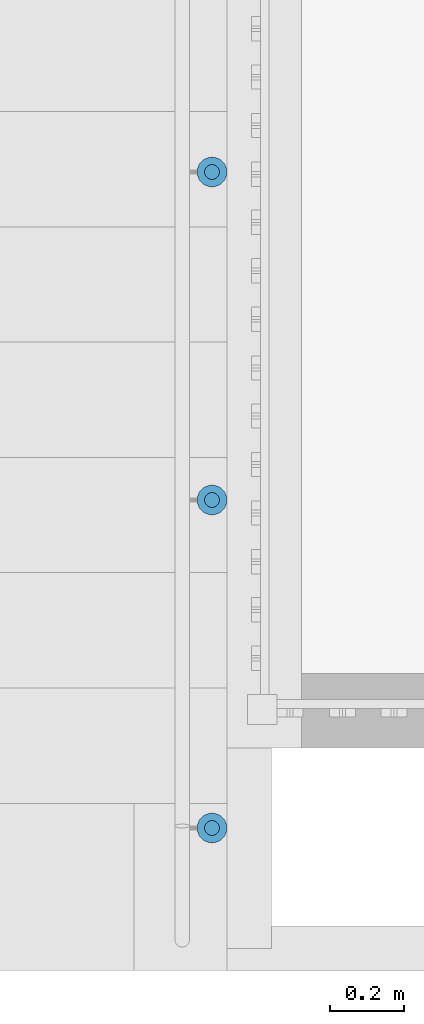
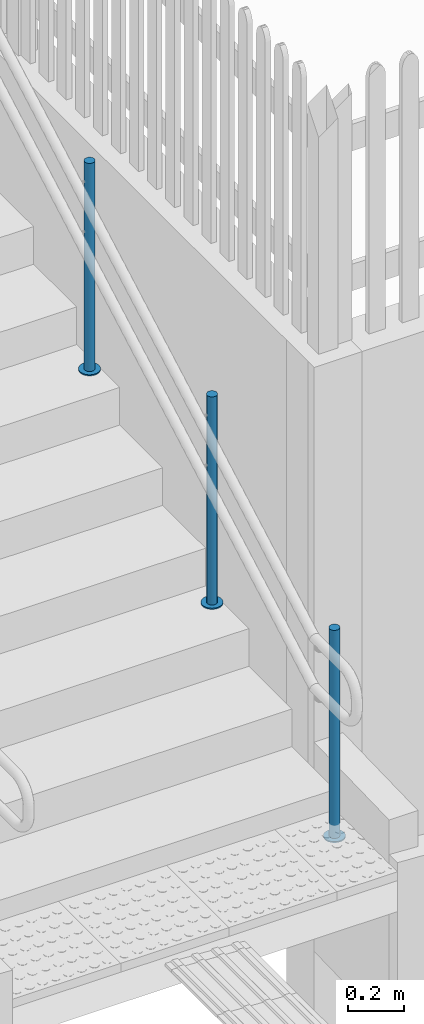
# One storey, part 86 of 237: 6 building element parts, 1 element without a shape of its own.
"""IFC2X3 building model written with IfcOpenShell, lengths in millimetres."""

import ifcopenshell
import ifcopenshell.guid

model = None  # the IFC model being written
_history = None  # IfcOwnerHistory: only IFC2X3 demands one
_inside = {}  # id of a spatial element -> (the spatial element, [elements in it])
_under = {}  # id of a project, library or spatial element -> (it, [spatial elements below it])
_declared = {}  # id of a project -> (the project, [libraries it declares])
_typed = {}  # id of a type object -> (the type object, [elements of that type])
_made_of = {}  # id of a material, layer set ... -> (it, [elements and type objects made of it])


def new_model(schema):
    """Start an empty IFC model of exactly this schema.

    Asked for "IFC4X3", IfcOpenShell would pick the latest addendum, in which some entities
    have other attributes; the version numbers below select the first issue.
    IFC2X3 requires an IfcOwnerHistory on every rooted entity: one is made here for all.
    """
    global model, _history
    if schema == "IFC4X3":
        model = ifcopenshell.file(schema_version=(4, 3, 0, 0))
    else:
        model = ifcopenshell.file(schema=schema)
    _inside.clear()
    _under.clear()
    _declared.clear()
    _typed.clear()
    _made_of.clear()
    _history = None
    if model.schema == "IFC2X3":
        org = make("IfcOrganization", Name="unknown")
        user = make(
            "IfcPersonAndOrganization",
            ThePerson=make("IfcPerson", FamilyName="unknown"),
            TheOrganization=org,
        )
        app = make(
            "IfcApplication",
            ApplicationDeveloper=org,
            Version="unknown",
            ApplicationFullName="unknown",
            ApplicationIdentifier="unknown",
        )
        _history = make(
            "IfcOwnerHistory",
            OwningUser=user,
            OwningApplication=app,
            ChangeAction="ADDED",
            CreationDate=0,
        )
    return model


def make(cls, **values):
    """One entity of the class cls with the attributes given. An attribute that is None is left unset."""
    return model.create_entity(
        cls, **{name: value for name, value in values.items() if value is not None}
    )


def entity(cls, *values):
    """Any entity or typed value of the class cls, its attributes in the order of the schema. None: left unset."""
    e = model.create_entity(cls)
    for i, value in enumerate(values):
        if value is not None:
            e[i] = value
    return e


def rooted(cls, **values):
    """An entity with a GlobalId (a new one), such as an element, a storey or a relation."""
    return make(cls, GlobalId=ifcopenshell.guid.new(), OwnerHistory=_history, **values)


def si_unit(unit_type, name, prefix=None):
    """IfcSIUnit, for example si_unit("LENGTHUNIT", "METRE", prefix="MILLI")."""
    return make("IfcSIUnit", UnitType=unit_type, Prefix=prefix, Name=name)


def converted_unit(unit_type, name, factor, base, dimensions=None, offset=None):
    """IfcConversionBasedUnit, such as the inch: factor (a typed value) times the base unit."""
    return make(
        "IfcConversionBasedUnit"
        if offset is None
        else "IfcConversionBasedUnitWithOffset",
        ConversionOffset=offset,
        Dimensions=None
        if dimensions is None
        else entity("IfcDimensionalExponents", *dimensions),
        UnitType=unit_type,
        Name=name,
        ConversionFactor=make(
            "IfcMeasureWithUnit", ValueComponent=factor, UnitComponent=base
        ),
    )


def derived_unit(unit_type, elements):
    """IfcDerivedUnit: a product of units, each with its exponent."""
    return make(
        "IfcDerivedUnit",
        Elements=[
            make("IfcDerivedUnitElement", Unit=unit, Exponent=power)
            for unit, power in elements
        ],
        UnitType=unit_type,
    )


def money_unit(currency):
    """IfcMonetaryUnit."""
    return make("IfcMonetaryUnit", Currency=currency)


def assignment(units):
    """IfcUnitAssignment: the units of a project."""
    return None if units is None else make("IfcUnitAssignment", Units=units)


def point(xyz):
    """IfcCartesianPoint."""
    return None if xyz is None else make("IfcCartesianPoint", Coordinates=xyz)


def direction(xyz):
    """IfcDirection."""
    return None if xyz is None else make("IfcDirection", DirectionRatios=xyz)


def frame(location, z_axis=None, x_axis=None):
    """IfcAxis2Placement3D, a coordinate frame: its origin and axes. An axis left out is left unset."""
    return make(
        "IfcAxis2Placement3D",
        Location=point(location),
        Axis=direction(z_axis),
        RefDirection=direction(x_axis),
    )


def origin_with_axes():
    """The frame at (0, 0, 0) with the z axis (0, 0, 1) and the x axis (1, 0, 0) written out."""
    return frame((0.0, 0.0, 0.0), z_axis=(0.0, 0.0, 1.0), x_axis=(1.0, 0.0, 0.0))


def place(relative_to, where):
    """IfcLocalPlacement: puts the frame where relative to a parent placement (None: the world)."""
    return make(
        "IfcLocalPlacement", PlacementRelTo=relative_to, RelativePlacement=where
    )


def context(
    kind, dimensions, precision=None, world=None, true_north=None, identifier=None
):
    """IfcGeometricRepresentationContext, for example the 3D "Model" context."""
    return make(
        "IfcGeometricRepresentationContext",
        ContextIdentifier=identifier,
        ContextType=kind,
        CoordinateSpaceDimension=dimensions,
        Precision=precision,
        WorldCoordinateSystem=world,
        TrueNorth=true_north,
    )


def subcontext(parent, identifier, kind, view, scale=None):
    """IfcGeometricRepresentationSubContext, for example "Body" below "Model"."""
    return make(
        "IfcGeometricRepresentationSubContext",
        ContextIdentifier=identifier,
        ContextType=kind,
        ParentContext=parent,
        TargetScale=scale,
        TargetView=view,
    )


def project(units=None, contexts=None):
    """IfcProject with its units and contexts."""
    return rooted(
        "IfcProject",
        Name="project",
        RepresentationContexts=contexts,
        UnitsInContext=assignment(units),
    )


def spatial(cls, under=None, at=None, **own):
    """A site, building, storey or space (cls), placed at a placement, below another one or the project."""
    s = rooted(cls, ObjectPlacement=at, **own)
    if under is not None:
        _under.setdefault(under.id(), (under, []))[1].append(s)
    return s


def faces_of(points, faces, orient=None, outer=None):
    """IfcFace entities. A face is a list of loops; a loop is a list of indices into points, from 0.

    orient and outer hold one flag for each loop. By default every Orientation is true, the
    first loop of a face is its IfcFaceOuterBound and the others are IfcFaceBound.
    """
    made = []
    for i, loops in enumerate(faces):
        bounds = []
        for j, loop in enumerate(loops):
            is_outer = j == 0 if outer is None else outer[i][j]
            bounds.append(
                make(
                    "IfcFaceOuterBound" if is_outer else "IfcFaceBound",
                    Bound=make("IfcPolyLoop", Polygon=[points[k] for k in loop]),
                    Orientation=True if orient is None else orient[i][j],
                )
            )
        made.append(make("IfcFace", Bounds=bounds))
    return made


def faceted_brep(points, faces, orient=None, outer=None, voids=None):
    """IfcFacetedBrep: a solid bounded by flat faces; with voids (closed shells), ...WithVoids."""
    shared = [point(p) for p in points]
    hull = make("IfcClosedShell", CfsFaces=faces_of(shared, faces, orient, outer))
    if voids is None:
        return make("IfcFacetedBrep", Outer=hull)
    return make(
        "IfcFacetedBrepWithVoids",
        Outer=hull,
        Voids=[
            make(cls, CfsFaces=faces_of(shared, fs, o, b)) for cls, fs, o, b in voids
        ],
    )


def shape(context_of_items, identifier, shape_type, items):
    """IfcShapeRepresentation: the items that make up one representation, for example the "Body"."""
    return make(
        "IfcShapeRepresentation",
        ContextOfItems=context_of_items,
        RepresentationIdentifier=identifier,
        RepresentationType=shape_type,
        Items=items,
    )


def material(Name=None, Category=None):
    """IfcMaterial."""
    return make("IfcMaterial", Name=Name, Category=Category)


def made_of(thing, what):
    """Note that an element or type object is made of a material, layer set ...; save() writes the relation."""
    if what is not None:
        _made_of.setdefault(what.id(), (what, []))[1].append(thing)
    return thing


def type_object(cls, material=None, **own):
    """A type object (cls), such as IfcWallType, which elements share."""
    return made_of(rooted(cls, **own), material)


def element(
    cls,
    number,
    at=None,
    inside=None,
    cuts=None,
    type_object=None,
    material=None,
    context=None,
    identifier="Body",
    shape_type=None,
    held_by="IfcProductDefinitionShape",
    body=None,
    shapes=None,
    **own,
):
    """One element of the class cls, such as IfcWall. Its Tag is "e" and its number.

    at: its placement. inside: the storey or other place that contains it. cuts: it is an
    opening in that element (IfcRelVoidsElement). A single representation is given by context,
    identifier, shape_type and body (its items); several are given by shapes. held_by: the class
    of the entity that holds the representations. save() writes the other relations.
    """
    e = rooted(cls, Tag="e%d" % number, ObjectPlacement=at, **own)
    if body is not None:
        shapes = [shape(context, identifier, shape_type, body)]
    if shapes is not None:
        e.Representation = make(held_by, Representations=shapes)
    if inside is not None:
        _inside.setdefault(inside.id(), (inside, []))[1].append(e)
    if cuts is not None:
        rooted(
            "IfcRelVoidsElement", RelatingBuildingElement=cuts, RelatedOpeningElement=e
        )
    if type_object is not None:
        _typed.setdefault(type_object.id(), (type_object, []))[1].append(e)
    return made_of(e, material)


def aggregate(whole, parts):
    """IfcRelAggregates: a whole, such as a stair, and the parts it consists of."""
    return rooted("IfcRelAggregates", RelatingObject=whole, RelatedObjects=parts)


def save(model, path):
    """Write the relations noted so far, then the file.

    IfcRelAggregates (storeys below a building ...), IfcRelContainedInSpatialStructure (elements
    in a storey), IfcRelDefinesByType, IfcRelAssociatesMaterial and IfcRelDeclares: one each for
    every whole, place, type object, material and project.
    """
    for whole, parts in _under.values():
        aggregate(whole, parts)
    for where, things in _inside.values():
        rooted(
            "IfcRelContainedInSpatialStructure",
            RelatedElements=things,
            RelatingStructure=where,
        )
    for kind, things in _typed.values():
        rooted("IfcRelDefinesByType", RelatedObjects=things, RelatingType=kind)
    for what, things in _made_of.values():
        rooted("IfcRelAssociatesMaterial", RelatedObjects=things, RelatingMaterial=what)
    for by, libraries in _declared.values():
        rooted("IfcRelDeclares", RelatingContext=by, RelatedDefinitions=libraries)
    model.write(path)


model = new_model("IFC2X3")

# Units and contexts
model_context = context("Model", 3, precision=0.01, world=origin_with_axes(), true_north=direction((0.0, 1.0)))
body_context = subcontext(model_context, "Body", "Model", "MODEL_VIEW")
ifc_project = project(units=[si_unit("LENGTHUNIT", "METRE", prefix="MILLI"), si_unit("AREAUNIT", "SQUARE_METRE"), si_unit("VOLUMEUNIT", "CUBIC_METRE"), converted_unit("PLANEANGLEUNIT", "DEGREE", entity("IfcPlaneAngleMeasure", 0.0174532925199), si_unit("PLANEANGLEUNIT", "RADIAN"), dimensions=[0, 0, 0, 0, 0, 0, 0]), money_unit("USD"), converted_unit("TIMEUNIT", "Year", entity("IfcTimeMeasure", 31556926.0), si_unit("TIMEUNIT", "SECOND"), dimensions=[0, 0, 1, 0, 0, 0, 0]), si_unit("MASSUNIT", "GRAM", prefix="KILO"), si_unit("THERMODYNAMICTEMPERATUREUNIT", "DEGREE_CELSIUS"), si_unit("LUMINOUSINTENSITYUNIT", "LUMEN"), si_unit("ENERGYUNIT", "JOULE", prefix="MEGA"), derived_unit("THERMALCONDUCTANCEUNIT", [(si_unit("POWERUNIT", "WATT"), 1), (si_unit("LENGTHUNIT", "METRE"), -1), (si_unit("THERMODYNAMICTEMPERATUREUNIT", "KELVIN"), -1)]), derived_unit("SPECIFICHEATCAPACITYUNIT", [(si_unit("ENERGYUNIT", "JOULE"), 1), (si_unit("MASSUNIT", "GRAM", prefix="KILO"), -1), (si_unit("THERMODYNAMICTEMPERATUREUNIT", "KELVIN"), -1)]), derived_unit("MASSDENSITYUNIT", [(si_unit("MASSUNIT", "GRAM", prefix="KILO"), 1), (si_unit("VOLUMEUNIT", "CUBIC_METRE"), -1)])], contexts=[model_context])

# Site, building, storey
site_placement = place(None, origin_with_axes())
site = spatial("IfcSite", under=ifc_project, at=site_placement, Name="Local", CompositionType="ELEMENT")
building_placement = place(site_placement, origin_with_axes())
building = spatial("IfcBuilding", under=site, at=building_placement, Name="Construção", CompositionType="ELEMENT")
storey_placement = place(building_placement, origin_with_axes())
storey = spatial("IfcBuildingStorey", under=building, at=storey_placement, Name="Pavimento Térreo", CompositionType="ELEMENT", Elevation=0.0)

# Railing, building element parts
railing_type = type_object("IfcRailingType", Name="Tipo de Guarda-Corpo", PredefinedType="NOTDEFINED")
railing_placement = place(storey_placement, frame((42107.6477557, 12539.1370974, -3113.60448569), z_axis=(0.0, 0.0, 1.0), x_axis=(1.0, 0.0, 0.0)))
railing = element("IfcRailing", 1, at=railing_placement, inside=storey, type_object=railing_type, Name="Guarda-Corpo - 001", PredefinedType="NOTDEFINED")
ifc_material_1 = material(Name="Aço - Inoxidável")
building_element_part_1_placement = place(railing_placement, origin_with_axes())
building_element_part_1 = element("IfcBuildingElementPart", 2, at=building_element_part_1_placement, material=ifc_material_1, Name="Aço - Inoxidável", context=body_context, shape_type="Brep", body=[
    faceted_brep([(34.4924919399, -135.445127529, 27.2995514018), (34.7963368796, -131.972163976, 27.2995514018), (34.7963368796, -131.972163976, 942.299551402), (34.4924919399, -135.445127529, 942.299551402), (34.4924919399, -128.499200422, 27.2995514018), (33.5901892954, -138.812566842, 27.2995514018), (32.1168449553, -141.972163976, 27.2995514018), (30.117225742, -144.827916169, 27.2995514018), (27.6520890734, -147.293052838, 27.2995514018), (24.7963368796, -149.292672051, 27.2995514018), (21.6367397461, -150.766016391, 27.2995514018), (18.269300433, -151.668319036, 27.2995514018), (14.7963368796, -151.972163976, 27.2995514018), (11.3233733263, -151.668319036, 27.2995514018), (7.95593401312, -150.766016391, 27.2995514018), (4.79633687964, -149.292672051, 27.2995514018), (1.9405846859, -147.293052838, 27.2995514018), (-0.524551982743, -144.827916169, 27.2995514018), (-2.52417119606, -141.972163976, 27.2995514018), (-3.99751553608, -138.812566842, 27.2995514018), (-4.89981818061, -135.445127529, 27.2995514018), (-5.20366312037, -131.972163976, 27.2995514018), (-4.89981818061, -128.499200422, 27.2995514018), (-3.99751553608, -125.131761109, 27.2995514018), (-2.52417119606, -121.972163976, 27.2995514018), (-0.524551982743, -119.116411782, 27.2995514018), (1.9405846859, -116.651275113, 27.2995514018), (4.79633687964, -114.6516559, 27.2995514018), (7.95593401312, -113.17831156, 27.2995514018), (11.3233733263, -112.276008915, 27.2995514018), (14.7963368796, -111.972163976, 27.2995514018), (18.269300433, -112.276008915, 27.2995514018), (21.6367397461, -113.17831156, 27.2995514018), (24.7963368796, -114.6516559, 27.2995514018), (27.6520890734, -116.651275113, 27.2995514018), (30.117225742, -119.116411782, 27.2995514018), (32.1168449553, -121.972163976, 27.2995514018), (33.5901892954, -125.131761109, 27.2995514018), (34.4924919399, -128.499200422, 942.299551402), (11.3233733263, -151.668319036, 942.299551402), (14.7963368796, -151.972163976, 942.299551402), (18.269300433, -151.668319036, 942.299551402), (21.6367397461, -150.766016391, 942.299551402), (24.7963368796, -149.292672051, 942.299551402), (27.6520890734, -147.293052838, 942.299551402), (30.117225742, -144.827916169, 942.299551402), (32.1168449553, -141.972163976, 942.299551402), (33.5901892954, -138.812566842, 942.299551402), (33.5901892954, -125.131761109, 942.299551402), (32.1168449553, -121.972163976, 942.299551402), (30.117225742, -119.116411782, 942.299551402), (27.6520890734, -116.651275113, 942.299551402), (24.7963368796, -114.6516559, 942.299551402), (21.6367397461, -113.17831156, 942.299551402), (18.269300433, -112.276008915, 942.299551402), (14.7963368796, -111.972163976, 942.299551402), (11.3233733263, -112.276008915, 942.299551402), (7.95593401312, -113.17831156, 942.299551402), (4.79633687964, -114.6516559, 942.299551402), (1.9405846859, -116.651275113, 942.299551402), (-0.524551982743, -119.116411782, 942.299551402), (-2.52417119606, -121.972163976, 942.299551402), (-3.99751553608, -125.131761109, 942.299551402), (-4.89981818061, -128.499200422, 942.299551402), (-5.20366312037, -131.972163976, 942.299551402), (-4.89981818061, -135.445127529, 942.299551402), (-3.99751553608, -138.812566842, 942.299551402), (-2.52417119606, -141.972163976, 942.299551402), (-0.524551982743, -144.827916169, 942.299551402), (1.9405846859, -147.293052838, 942.299551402), (4.79633687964, -149.292672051, 942.299551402), (7.95593401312, -150.766016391, 942.299551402)], [[[0, 1, 2, 3]], [[4, 1, 0, 5, 6, 7, 8, 9, 10, 11, 12, 13, 14, 15, 16, 17, 18, 19, 20, 21, 22, 23, 24, 25, 26, 27, 28, 29, 30, 31, 32, 33, 34, 35, 36, 37]], [[1, 4, 38, 2]], [[39, 40, 41, 42, 43, 44, 45, 46, 47, 3, 2, 38, 48, 49, 50, 51, 52, 53, 54, 55, 56, 57, 58, 59, 60, 61, 62, 63, 64, 65, 66, 67, 68, 69, 70, 71]], [[5, 0, 3, 47]], [[6, 5, 47, 46]], [[7, 6, 46, 45]], [[8, 7, 45, 44]], [[9, 8, 44, 43]], [[10, 9, 43, 42]], [[11, 10, 42, 41]], [[12, 11, 41, 40]], [[13, 12, 40, 39]], [[14, 13, 39, 71]], [[15, 14, 71, 70]], [[16, 15, 70, 69]], [[17, 16, 69, 68]], [[18, 17, 68, 67]], [[19, 18, 67, 66]], [[20, 19, 66, 65]], [[21, 20, 65, 64]], [[22, 21, 64, 63]], [[23, 22, 63, 62]], [[24, 23, 62, 61]], [[25, 24, 61, 60]], [[26, 25, 60, 59]], [[27, 26, 59, 58]], [[28, 27, 58, 57]], [[29, 28, 57, 56]], [[30, 29, 56, 55]], [[31, 30, 55, 54]], [[32, 31, 54, 53]], [[33, 32, 53, 52]], [[34, 33, 52, 51]], [[35, 34, 51, 50]], [[36, 35, 50, 49]], [[37, 36, 49, 48]], [[4, 37, 48, 38]]]),
])
ifc_material_2 = material(Name="Alumínio")
building_element_part_2_placement = place(railing_placement, origin_with_axes())
building_element_part_2 = element("IfcBuildingElementPart", 3, at=building_element_part_2_placement, material=ifc_material_2, Name="Alumínio", context=body_context, shape_type="Brep", body=[
    faceted_brep([(14.7963368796, -91.9721639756, 22.2995514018), (7.85040977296, -92.5798538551, 22.2995514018), (7.85040977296, -92.5798538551, 27.2995514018), (14.7963368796, -91.9721639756, 27.2995514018), (21.7422639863, -92.5798538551, 22.2995514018), (28.4771426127, -94.3844591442, 22.2995514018), (34.7963368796, -97.3311478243, 22.2995514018), (40.5078412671, -101.330386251, 22.2995514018), (45.4381146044, -106.260659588, 22.2995514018), (49.437353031, -111.972163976, 22.2995514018), (52.3840417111, -118.291358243, 22.2995514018), (54.1886470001, -125.026236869, 22.2995514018), (54.7963368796, -131.972163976, 22.2995514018), (54.1886470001, -138.918091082, 22.2995514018), (52.3840417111, -145.652969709, 22.2995514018), (49.437353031, -151.972163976, 22.2995514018), (45.4381146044, -157.683668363, 22.2995514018), (40.5078412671, -162.6139417, 22.2995514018), (34.7963368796, -166.613180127, 22.2995514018), (28.4771426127, -169.559868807, 22.2995514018), (21.7422639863, -171.364474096, 22.2995514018), (14.7963368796, -171.972163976, 22.2995514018), (7.85040977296, -171.364474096, 22.2995514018), (1.11553114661, -169.559868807, 22.2995514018), (-5.20366312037, -166.613180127, 22.2995514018), (-10.9151675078, -162.6139417, 22.2995514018), (-15.8454408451, -157.683668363, 22.2995514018), (-19.8446792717, -151.972163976, 22.2995514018), (-22.7913679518, -145.652969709, 22.2995514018), (-24.5959732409, -138.918091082, 22.2995514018), (-25.2036631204, -131.972163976, 22.2995514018), (-24.5959732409, -125.026236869, 22.2995514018), (-22.7913679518, -118.291358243, 22.2995514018), (-19.8446792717, -111.972163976, 22.2995514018), (-15.8454408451, -106.260659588, 22.2995514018), (-10.9151675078, -101.330386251, 22.2995514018), (-5.20366312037, -97.3311478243, 22.2995514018), (1.11553114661, -94.3844591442, 22.2995514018), (1.11553114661, -94.3844591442, 27.2995514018), (-5.20366312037, -97.3311478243, 27.2995514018), (-10.9151675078, -101.330386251, 27.2995514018), (-15.8454408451, -106.260659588, 27.2995514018), (-19.8446792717, -111.972163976, 27.2995514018), (-22.7913679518, -118.291358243, 27.2995514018), (-24.5959732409, -125.026236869, 27.2995514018), (-25.2036631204, -131.972163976, 27.2995514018), (-24.5959732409, -138.918091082, 27.2995514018), (-22.7913679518, -145.652969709, 27.2995514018), (-19.8446792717, -151.972163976, 27.2995514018), (-15.8454408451, -157.683668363, 27.2995514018), (-10.9151675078, -162.6139417, 27.2995514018), (-5.20366312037, -166.613180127, 27.2995514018), (1.11553114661, -169.559868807, 27.2995514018), (7.85040977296, -171.364474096, 27.2995514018), (14.7963368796, -171.972163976, 27.2995514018), (21.7422639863, -171.364474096, 27.2995514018), (28.4771426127, -169.559868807, 27.2995514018), (34.7963368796, -166.613180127, 27.2995514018), (40.5078412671, -162.6139417, 27.2995514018), (45.4381146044, -157.683668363, 27.2995514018), (49.437353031, -151.972163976, 27.2995514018), (52.3840417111, -145.652969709, 27.2995514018), (54.1886470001, -138.918091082, 27.2995514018), (54.7963368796, -131.972163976, 27.2995514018), (54.1886470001, -125.026236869, 27.2995514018), (52.3840417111, -118.291358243, 27.2995514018), (49.437353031, -111.972163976, 27.2995514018), (45.4381146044, -106.260659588, 27.2995514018), (40.5078412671, -101.330386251, 27.2995514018), (34.7963368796, -97.3311478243, 27.2995514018), (28.4771426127, -94.3844591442, 27.2995514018), (21.7422639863, -92.5798538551, 27.2995514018)], [[[0, 1, 2, 3]], [[0, 4, 5, 6, 7, 8, 9, 10, 11, 12, 13, 14, 15, 16, 17, 18, 19, 20, 21, 22, 23, 24, 25, 26, 27, 28, 29, 30, 31, 32, 33, 34, 35, 36, 37, 1]], [[1, 37, 38, 2]], [[3, 2, 38, 39, 40, 41, 42, 43, 44, 45, 46, 47, 48, 49, 50, 51, 52, 53, 54, 55, 56, 57, 58, 59, 60, 61, 62, 63, 64, 65, 66, 67, 68, 69, 70, 71]], [[4, 0, 3, 71]], [[5, 4, 71, 70]], [[6, 5, 70, 69]], [[7, 6, 69, 68]], [[8, 7, 68, 67]], [[9, 8, 67, 66]], [[10, 9, 66, 65]], [[11, 10, 65, 64]], [[12, 11, 64, 63]], [[13, 12, 63, 62]], [[14, 13, 62, 61]], [[15, 14, 61, 60]], [[16, 15, 60, 59]], [[17, 16, 59, 58]], [[18, 17, 58, 57]], [[19, 18, 57, 56]], [[20, 19, 56, 55]], [[21, 20, 55, 54]], [[22, 21, 54, 53]], [[23, 22, 53, 52]], [[24, 23, 52, 51]], [[25, 24, 51, 50]], [[26, 25, 50, 49]], [[27, 26, 49, 48]], [[28, 27, 48, 47]], [[29, 28, 47, 46]], [[30, 29, 46, 45]], [[31, 30, 45, 44]], [[32, 31, 44, 43]], [[33, 32, 43, 42]], [[34, 33, 42, 41]], [[35, 34, 41, 40]], [[36, 35, 40, 39]], [[37, 36, 39, 38]]]),
])
building_element_part_3_placement = place(railing_placement, origin_with_axes())
building_element_part_3 = element("IfcBuildingElementPart", 4, at=building_element_part_3_placement, material=ifc_material_1, Name="Aço - Inoxidável", context=body_context, shape_type="Brep", body=[
    faceted_brep([(34.4924919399, 746.397772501, 518.91707834), (34.7963368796, 749.870736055, 518.91707834), (34.7963368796, 749.870736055, 1433.91707834), (34.4924919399, 746.397772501, 1433.91707834), (34.4924919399, 753.343699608, 518.91707834), (33.5901892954, 743.030333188, 518.91707834), (32.1168449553, 739.870736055, 518.91707834), (30.117225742, 737.014983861, 518.91707834), (27.6520890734, 734.549847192, 518.91707834), (24.7963368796, 732.550227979, 518.91707834), (21.6367397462, 731.076883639, 518.91707834), (18.269300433, 730.174580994, 518.91707834), (14.7963368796, 729.870736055, 518.91707834), (11.3233733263, 730.174580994, 518.91707834), (7.95593401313, 731.076883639, 518.91707834), (4.79633687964, 732.550227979, 518.91707834), (1.94058468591, 734.549847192, 518.91707834), (-0.524551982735, 737.014983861, 518.91707834), (-2.52417119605, 739.870736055, 518.91707834), (-3.99751553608, 743.030333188, 518.91707834), (-4.8998181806, 746.397772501, 518.91707834), (-5.20366312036, 749.870736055, 518.91707834), (-4.8998181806, 753.343699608, 518.91707834), (-3.99751553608, 756.711138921, 518.91707834), (-2.52417119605, 759.870736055, 518.91707834), (-0.524551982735, 762.726488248, 518.91707834), (1.94058468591, 765.191624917, 518.91707834), (4.79633687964, 767.19124413, 518.91707834), (7.95593401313, 768.66458847, 518.91707834), (11.3233733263, 769.566891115, 518.91707834), (14.7963368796, 769.870736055, 518.91707834), (18.269300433, 769.566891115, 518.91707834), (21.6367397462, 768.66458847, 518.91707834), (24.7963368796, 767.19124413, 518.91707834), (27.6520890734, 765.191624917, 518.91707834), (30.117225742, 762.726488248, 518.91707834), (32.1168449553, 759.870736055, 518.91707834), (33.5901892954, 756.711138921, 518.91707834), (34.4924919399, 753.343699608, 1433.91707834), (11.3233733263, 730.174580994, 1433.91707834), (14.7963368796, 729.870736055, 1433.91707834), (18.269300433, 730.174580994, 1433.91707834), (21.6367397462, 731.076883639, 1433.91707834), (24.7963368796, 732.550227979, 1433.91707834), (27.6520890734, 734.549847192, 1433.91707834), (30.117225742, 737.014983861, 1433.91707834), (32.1168449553, 739.870736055, 1433.91707834), (33.5901892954, 743.030333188, 1433.91707834), (33.5901892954, 756.711138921, 1433.91707834), (32.1168449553, 759.870736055, 1433.91707834), (30.117225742, 762.726488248, 1433.91707834), (27.6520890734, 765.191624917, 1433.91707834), (24.7963368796, 767.19124413, 1433.91707834), (21.6367397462, 768.66458847, 1433.91707834), (18.269300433, 769.566891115, 1433.91707834), (14.7963368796, 769.870736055, 1433.91707834), (11.3233733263, 769.566891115, 1433.91707834), (7.95593401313, 768.66458847, 1433.91707834), (4.79633687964, 767.19124413, 1433.91707834), (1.94058468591, 765.191624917, 1433.91707834), (-0.524551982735, 762.726488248, 1433.91707834), (-2.52417119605, 759.870736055, 1433.91707834), (-3.99751553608, 756.711138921, 1433.91707834), (-4.8998181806, 753.343699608, 1433.91707834), (-5.20366312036, 749.870736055, 1433.91707834), (-4.8998181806, 746.397772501, 1433.91707834), (-3.99751553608, 743.030333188, 1433.91707834), (-2.52417119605, 739.870736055, 1433.91707834), (-0.524551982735, 737.014983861, 1433.91707834), (1.94058468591, 734.549847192, 1433.91707834), (4.79633687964, 732.550227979, 1433.91707834), (7.95593401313, 731.076883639, 1433.91707834)], [[[0, 1, 2, 3]], [[4, 1, 0, 5, 6, 7, 8, 9, 10, 11, 12, 13, 14, 15, 16, 17, 18, 19, 20, 21, 22, 23, 24, 25, 26, 27, 28, 29, 30, 31, 32, 33, 34, 35, 36, 37]], [[1, 4, 38, 2]], [[39, 40, 41, 42, 43, 44, 45, 46, 47, 3, 2, 38, 48, 49, 50, 51, 52, 53, 54, 55, 56, 57, 58, 59, 60, 61, 62, 63, 64, 65, 66, 67, 68, 69, 70, 71]], [[5, 0, 3, 47]], [[6, 5, 47, 46]], [[7, 6, 46, 45]], [[8, 7, 45, 44]], [[9, 8, 44, 43]], [[10, 9, 43, 42]], [[11, 10, 42, 41]], [[12, 11, 41, 40]], [[13, 12, 40, 39]], [[14, 13, 39, 71]], [[15, 14, 71, 70]], [[16, 15, 70, 69]], [[17, 16, 69, 68]], [[18, 17, 68, 67]], [[19, 18, 67, 66]], [[20, 19, 66, 65]], [[21, 20, 65, 64]], [[22, 21, 64, 63]], [[23, 22, 63, 62]], [[24, 23, 62, 61]], [[25, 24, 61, 60]], [[26, 25, 60, 59]], [[27, 26, 59, 58]], [[28, 27, 58, 57]], [[29, 28, 57, 56]], [[30, 29, 56, 55]], [[31, 30, 55, 54]], [[32, 31, 54, 53]], [[33, 32, 53, 52]], [[34, 33, 52, 51]], [[35, 34, 51, 50]], [[36, 35, 50, 49]], [[37, 36, 49, 48]], [[4, 37, 48, 38]]]),
])
building_element_part_4_placement = place(railing_placement, origin_with_axes())
building_element_part_4 = element("IfcBuildingElementPart", 5, at=building_element_part_4_placement, material=ifc_material_2, Name="Alumínio", context=body_context, shape_type="Brep", body=[
    faceted_brep([(14.7963368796, 789.870736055, 513.91707834), (7.85040977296, 789.263046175, 513.91707834), (7.85040977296, 789.263046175, 518.91707834), (14.7963368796, 789.870736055, 518.91707834), (21.7422639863, 789.263046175, 513.91707834), (28.4771426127, 787.458440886, 513.91707834), (34.7963368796, 784.511752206, 513.91707834), (40.5078412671, 780.512513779, 513.91707834), (45.4381146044, 775.582240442, 513.91707834), (49.437353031, 769.870736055, 513.91707834), (52.3840417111, 763.551541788, 513.91707834), (54.1886470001, 756.816663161, 513.91707834), (54.7963368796, 749.870736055, 513.91707834), (54.1886470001, 742.924808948, 513.91707834), (52.3840417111, 736.189930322, 513.91707834), (49.437353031, 729.870736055, 513.91707834), (45.4381146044, 724.159231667, 513.91707834), (40.5078412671, 719.22895833, 513.91707834), (34.7963368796, 715.229719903, 513.91707834), (28.4771426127, 712.283031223, 513.91707834), (21.7422639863, 710.478425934, 513.91707834), (14.7963368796, 709.870736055, 513.91707834), (7.85040977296, 710.478425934, 513.91707834), (1.11553114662, 712.283031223, 513.91707834), (-5.20366312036, 715.229719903, 513.91707834), (-10.9151675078, 719.22895833, 513.91707834), (-15.8454408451, 724.159231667, 513.91707834), (-19.8446792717, 729.870736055, 513.91707834), (-22.7913679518, 736.189930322, 513.91707834), (-24.5959732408, 742.924808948, 513.91707834), (-25.2036631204, 749.870736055, 513.91707834), (-24.5959732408, 756.816663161, 513.91707834), (-22.7913679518, 763.551541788, 513.91707834), (-19.8446792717, 769.870736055, 513.91707834), (-15.8454408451, 775.582240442, 513.91707834), (-10.9151675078, 780.512513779, 513.91707834), (-5.20366312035, 784.511752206, 513.91707834), (1.11553114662, 787.458440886, 513.91707834), (1.11553114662, 787.458440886, 518.91707834), (-5.20366312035, 784.511752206, 518.91707834), (-10.9151675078, 780.512513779, 518.91707834), (-15.8454408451, 775.582240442, 518.91707834), (-19.8446792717, 769.870736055, 518.91707834), (-22.7913679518, 763.551541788, 518.91707834), (-24.5959732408, 756.816663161, 518.91707834), (-25.2036631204, 749.870736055, 518.91707834), (-24.5959732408, 742.924808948, 518.91707834), (-22.7913679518, 736.189930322, 518.91707834), (-19.8446792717, 729.870736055, 518.91707834), (-15.8454408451, 724.159231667, 518.91707834), (-10.9151675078, 719.22895833, 518.91707834), (-5.20366312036, 715.229719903, 518.91707834), (1.11553114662, 712.283031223, 518.91707834), (7.85040977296, 710.478425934, 518.91707834), (14.7963368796, 709.870736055, 518.91707834), (21.7422639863, 710.478425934, 518.91707834), (28.4771426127, 712.283031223, 518.91707834), (34.7963368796, 715.229719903, 518.91707834), (40.5078412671, 719.22895833, 518.91707834), (45.4381146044, 724.159231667, 518.91707834), (49.437353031, 729.870736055, 518.91707834), (52.3840417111, 736.189930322, 518.91707834), (54.1886470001, 742.924808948, 518.91707834), (54.7963368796, 749.870736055, 518.91707834), (54.1886470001, 756.816663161, 518.91707834), (52.3840417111, 763.551541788, 518.91707834), (49.437353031, 769.870736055, 518.91707834), (45.4381146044, 775.582240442, 518.91707834), (40.5078412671, 780.512513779, 518.91707834), (34.7963368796, 784.511752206, 518.91707834), (28.4771426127, 787.458440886, 518.91707834), (21.7422639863, 789.263046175, 518.91707834)], [[[0, 1, 2, 3]], [[0, 4, 5, 6, 7, 8, 9, 10, 11, 12, 13, 14, 15, 16, 17, 18, 19, 20, 21, 22, 23, 24, 25, 26, 27, 28, 29, 30, 31, 32, 33, 34, 35, 36, 37, 1]], [[1, 37, 38, 2]], [[3, 2, 38, 39, 40, 41, 42, 43, 44, 45, 46, 47, 48, 49, 50, 51, 52, 53, 54, 55, 56, 57, 58, 59, 60, 61, 62, 63, 64, 65, 66, 67, 68, 69, 70, 71]], [[4, 0, 3, 71]], [[5, 4, 71, 70]], [[6, 5, 70, 69]], [[7, 6, 69, 68]], [[8, 7, 68, 67]], [[9, 8, 67, 66]], [[10, 9, 66, 65]], [[11, 10, 65, 64]], [[12, 11, 64, 63]], [[13, 12, 63, 62]], [[14, 13, 62, 61]], [[15, 14, 61, 60]], [[16, 15, 60, 59]], [[17, 16, 59, 58]], [[18, 17, 58, 57]], [[19, 18, 57, 56]], [[20, 19, 56, 55]], [[21, 20, 55, 54]], [[22, 21, 54, 53]], [[23, 22, 53, 52]], [[24, 23, 52, 51]], [[25, 24, 51, 50]], [[26, 25, 50, 49]], [[27, 26, 49, 48]], [[28, 27, 48, 47]], [[29, 28, 47, 46]], [[30, 29, 46, 45]], [[31, 30, 45, 44]], [[32, 31, 44, 43]], [[33, 32, 43, 42]], [[34, 33, 42, 41]], [[35, 34, 41, 40]], [[36, 35, 40, 39]], [[37, 36, 39, 38]]]),
])
building_element_part_5_placement = place(railing_placement, origin_with_axes())
building_element_part_5 = element("IfcBuildingElementPart", 6, at=building_element_part_5_placement, material=ifc_material_1, Name="Aço - Inoxidável", context=body_context, shape_type="Brep", body=[
    faceted_brep([(34.4924919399, 1628.24067253, 1010.53460528), (34.7963368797, 1631.71363608, 1010.53460528), (34.7963368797, 1631.71363608, 1925.53460528), (34.4924919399, 1628.24067253, 1925.53460528), (34.4924919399, 1635.18659964, 1010.53460528), (33.5901892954, 1624.87323322, 1010.53460528), (32.1168449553, 1621.71363608, 1010.53460528), (30.117225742, 1618.85788389, 1010.53460528), (27.6520890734, 1616.39274722, 1010.53460528), (24.7963368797, 1614.39312801, 1010.53460528), (21.6367397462, 1612.91978367, 1010.53460528), (18.269300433, 1612.01748102, 1010.53460528), (14.7963368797, 1611.71363608, 1010.53460528), (11.3233733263, 1612.01748102, 1010.53460528), (7.95593401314, 1612.91978367, 1010.53460528), (4.79633687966, 1614.39312801, 1010.53460528), (1.94058468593, 1616.39274722, 1010.53460528), (-0.524551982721, 1618.85788389, 1010.53460528), (-2.52417119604, 1621.71363608, 1010.53460528), (-3.99751553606, 1624.87323322, 1010.53460528), (-4.89981818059, 1628.24067253, 1010.53460528), (-5.20366312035, 1631.71363608, 1010.53460528), (-4.89981818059, 1635.18659964, 1010.53460528), (-3.99751553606, 1638.55403895, 1010.53460528), (-2.52417119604, 1641.71363608, 1010.53460528), (-0.524551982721, 1644.56938828, 1010.53460528), (1.94058468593, 1647.03452495, 1010.53460528), (4.79633687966, 1649.03414416, 1010.53460528), (7.95593401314, 1650.5074885, 1010.53460528), (11.3233733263, 1651.40979115, 1010.53460528), (14.7963368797, 1651.71363608, 1010.53460528), (18.269300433, 1651.40979115, 1010.53460528), (21.6367397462, 1650.5074885, 1010.53460528), (24.7963368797, 1649.03414416, 1010.53460528), (27.6520890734, 1647.03452495, 1010.53460528), (30.117225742, 1644.56938828, 1010.53460528), (32.1168449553, 1641.71363608, 1010.53460528), (33.5901892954, 1638.55403895, 1010.53460528), (34.4924919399, 1635.18659964, 1925.53460528), (11.3233733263, 1612.01748102, 1925.53460528), (14.7963368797, 1611.71363608, 1925.53460528), (18.269300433, 1612.01748102, 1925.53460528), (21.6367397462, 1612.91978367, 1925.53460528), (24.7963368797, 1614.39312801, 1925.53460528), (27.6520890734, 1616.39274722, 1925.53460528), (30.117225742, 1618.85788389, 1925.53460528), (32.1168449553, 1621.71363608, 1925.53460528), (33.5901892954, 1624.87323322, 1925.53460528), (33.5901892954, 1638.55403895, 1925.53460528), (32.1168449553, 1641.71363608, 1925.53460528), (30.117225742, 1644.56938828, 1925.53460528), (27.6520890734, 1647.03452495, 1925.53460528), (24.7963368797, 1649.03414416, 1925.53460528), (21.6367397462, 1650.5074885, 1925.53460528), (18.269300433, 1651.40979115, 1925.53460528), (14.7963368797, 1651.71363608, 1925.53460528), (11.3233733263, 1651.40979115, 1925.53460528), (7.95593401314, 1650.5074885, 1925.53460528), (4.79633687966, 1649.03414416, 1925.53460528), (1.94058468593, 1647.03452495, 1925.53460528), (-0.524551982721, 1644.56938828, 1925.53460528), (-2.52417119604, 1641.71363608, 1925.53460528), (-3.99751553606, 1638.55403895, 1925.53460528), (-4.89981818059, 1635.18659964, 1925.53460528), (-5.20366312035, 1631.71363608, 1925.53460528), (-4.89981818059, 1628.24067253, 1925.53460528), (-3.99751553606, 1624.87323322, 1925.53460528), (-2.52417119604, 1621.71363608, 1925.53460528), (-0.524551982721, 1618.85788389, 1925.53460528), (1.94058468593, 1616.39274722, 1925.53460528), (4.79633687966, 1614.39312801, 1925.53460528), (7.95593401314, 1612.91978367, 1925.53460528)], [[[0, 1, 2, 3]], [[4, 1, 0, 5, 6, 7, 8, 9, 10, 11, 12, 13, 14, 15, 16, 17, 18, 19, 20, 21, 22, 23, 24, 25, 26, 27, 28, 29, 30, 31, 32, 33, 34, 35, 36, 37]], [[1, 4, 38, 2]], [[39, 40, 41, 42, 43, 44, 45, 46, 47, 3, 2, 38, 48, 49, 50, 51, 52, 53, 54, 55, 56, 57, 58, 59, 60, 61, 62, 63, 64, 65, 66, 67, 68, 69, 70, 71]], [[5, 0, 3, 47]], [[6, 5, 47, 46]], [[7, 6, 46, 45]], [[8, 7, 45, 44]], [[9, 8, 44, 43]], [[10, 9, 43, 42]], [[11, 10, 42, 41]], [[12, 11, 41, 40]], [[13, 12, 40, 39]], [[14, 13, 39, 71]], [[15, 14, 71, 70]], [[16, 15, 70, 69]], [[17, 16, 69, 68]], [[18, 17, 68, 67]], [[19, 18, 67, 66]], [[20, 19, 66, 65]], [[21, 20, 65, 64]], [[22, 21, 64, 63]], [[23, 22, 63, 62]], [[24, 23, 62, 61]], [[25, 24, 61, 60]], [[26, 25, 60, 59]], [[27, 26, 59, 58]], [[28, 27, 58, 57]], [[29, 28, 57, 56]], [[30, 29, 56, 55]], [[31, 30, 55, 54]], [[32, 31, 54, 53]], [[33, 32, 53, 52]], [[34, 33, 52, 51]], [[35, 34, 51, 50]], [[36, 35, 50, 49]], [[37, 36, 49, 48]], [[4, 37, 48, 38]]]),
])
building_element_part_6_placement = place(railing_placement, origin_with_axes())
building_element_part_6 = element("IfcBuildingElementPart", 7, at=building_element_part_6_placement, material=ifc_material_2, Name="Alumínio", context=body_context, shape_type="Brep", body=[
    faceted_brep([(14.7963368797, 1671.71363608, 1005.53460528), (7.85040977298, 1671.10594621, 1005.53460528), (7.85040977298, 1671.10594621, 1010.53460528), (14.7963368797, 1671.71363608, 1010.53460528), (21.7422639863, 1671.10594621, 1005.53460528), (28.4771426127, 1669.30134092, 1005.53460528), (34.7963368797, 1666.35465224, 1005.53460528), (40.5078412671, 1662.35541381, 1005.53460528), (45.4381146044, 1657.42514047, 1005.53460528), (49.437353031, 1651.71363608, 1005.53460528), (52.3840417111, 1645.39444182, 1005.53460528), (54.1886470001, 1638.65956319, 1005.53460528), (54.7963368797, 1631.71363608, 1005.53460528), (54.1886470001, 1624.76770898, 1005.53460528), (52.3840417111, 1618.03283035, 1005.53460528), (49.437353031, 1611.71363608, 1005.53460528), (45.4381146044, 1606.0021317, 1005.53460528), (40.5078412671, 1601.07185836, 1005.53460528), (34.7963368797, 1597.07261993, 1005.53460528), (28.4771426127, 1594.12593125, 1005.53460528), (21.7422639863, 1592.32132596, 1005.53460528), (14.7963368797, 1591.71363608, 1005.53460528), (7.85040977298, 1592.32132596, 1005.53460528), (1.11553114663, 1594.12593125, 1005.53460528), (-5.20366312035, 1597.07261993, 1005.53460528), (-10.9151675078, 1601.07185836, 1005.53460528), (-15.8454408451, 1606.0021317, 1005.53460528), (-19.8446792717, 1611.71363608, 1005.53460528), (-22.7913679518, 1618.03283035, 1005.53460528), (-24.5959732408, 1624.76770898, 1005.53460528), (-25.2036631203, 1631.71363608, 1005.53460528), (-24.5959732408, 1638.65956319, 1005.53460528), (-22.7913679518, 1645.39444182, 1005.53460528), (-19.8446792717, 1651.71363608, 1005.53460528), (-15.8454408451, 1657.42514047, 1005.53460528), (-10.9151675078, 1662.35541381, 1005.53460528), (-5.20366312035, 1666.35465224, 1005.53460528), (1.11553114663, 1669.30134092, 1005.53460528), (1.11553114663, 1669.30134092, 1010.53460528), (-5.20366312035, 1666.35465224, 1010.53460528), (-10.9151675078, 1662.35541381, 1010.53460528), (-15.8454408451, 1657.42514047, 1010.53460528), (-19.8446792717, 1651.71363608, 1010.53460528), (-22.7913679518, 1645.39444182, 1010.53460528), (-24.5959732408, 1638.65956319, 1010.53460528), (-25.2036631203, 1631.71363608, 1010.53460528), (-24.5959732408, 1624.76770898, 1010.53460528), (-22.7913679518, 1618.03283035, 1010.53460528), (-19.8446792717, 1611.71363608, 1010.53460528), (-15.8454408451, 1606.0021317, 1010.53460528), (-10.9151675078, 1601.07185836, 1010.53460528), (-5.20366312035, 1597.07261993, 1010.53460528), (1.11553114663, 1594.12593125, 1010.53460528), (7.85040977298, 1592.32132596, 1010.53460528), (14.7963368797, 1591.71363608, 1010.53460528), (21.7422639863, 1592.32132596, 1010.53460528), (28.4771426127, 1594.12593125, 1010.53460528), (34.7963368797, 1597.07261993, 1010.53460528), (40.5078412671, 1601.07185836, 1010.53460528), (45.4381146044, 1606.0021317, 1010.53460528), (49.437353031, 1611.71363608, 1010.53460528), (52.3840417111, 1618.03283035, 1010.53460528), (54.1886470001, 1624.76770898, 1010.53460528), (54.7963368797, 1631.71363608, 1010.53460528), (54.1886470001, 1638.65956319, 1010.53460528), (52.3840417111, 1645.39444182, 1010.53460528), (49.437353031, 1651.71363608, 1010.53460528), (45.4381146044, 1657.42514047, 1010.53460528), (40.5078412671, 1662.35541381, 1010.53460528), (34.7963368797, 1666.35465224, 1010.53460528), (28.4771426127, 1669.30134092, 1010.53460528), (21.7422639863, 1671.10594621, 1010.53460528)], [[[0, 1, 2, 3]], [[0, 4, 5, 6, 7, 8, 9, 10, 11, 12, 13, 14, 15, 16, 17, 18, 19, 20, 21, 22, 23, 24, 25, 26, 27, 28, 29, 30, 31, 32, 33, 34, 35, 36, 37, 1]], [[1, 37, 38, 2]], [[3, 2, 38, 39, 40, 41, 42, 43, 44, 45, 46, 47, 48, 49, 50, 51, 52, 53, 54, 55, 56, 57, 58, 59, 60, 61, 62, 63, 64, 65, 66, 67, 68, 69, 70, 71]], [[4, 0, 3, 71]], [[5, 4, 71, 70]], [[6, 5, 70, 69]], [[7, 6, 69, 68]], [[8, 7, 68, 67]], [[9, 8, 67, 66]], [[10, 9, 66, 65]], [[11, 10, 65, 64]], [[12, 11, 64, 63]], [[13, 12, 63, 62]], [[14, 13, 62, 61]], [[15, 14, 61, 60]], [[16, 15, 60, 59]], [[17, 16, 59, 58]], [[18, 17, 58, 57]], [[19, 18, 57, 56]], [[20, 19, 56, 55]], [[21, 20, 55, 54]], [[22, 21, 54, 53]], [[23, 22, 53, 52]], [[24, 23, 52, 51]], [[25, 24, 51, 50]], [[26, 25, 50, 49]], [[27, 26, 49, 48]], [[28, 27, 48, 47]], [[29, 28, 47, 46]], [[30, 29, 46, 45]], [[31, 30, 45, 44]], [[32, 31, 44, 43]], [[33, 32, 43, 42]], [[34, 33, 42, 41]], [[35, 34, 41, 40]], [[36, 35, 40, 39]], [[37, 36, 39, 38]]]),
])
aggregate(railing, [building_element_part_1, building_element_part_2, building_element_part_3, building_element_part_4, building_element_part_5, building_element_part_6])

save(model, "model.ifc")
